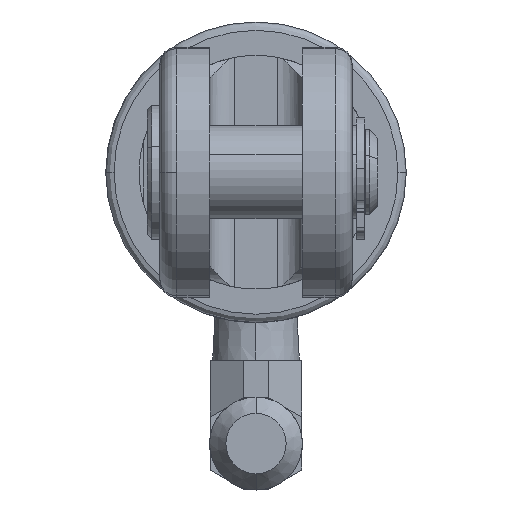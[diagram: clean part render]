
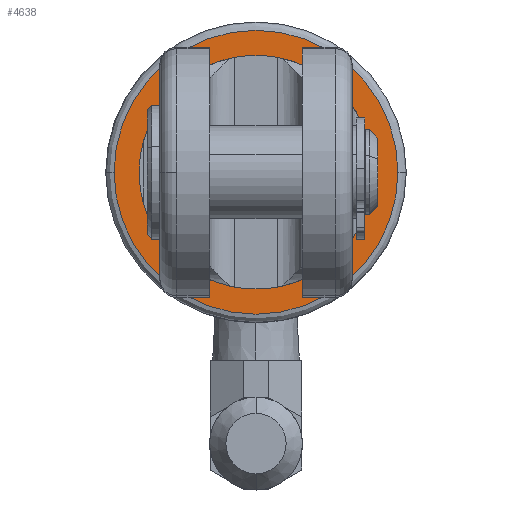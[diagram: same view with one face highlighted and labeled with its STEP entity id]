
A CAD part, front view. The second image highlights one B-rep face of the part: STEP entity #4638.
In plain terms, the highlighted planar face has unit normal (0, -1, 0).
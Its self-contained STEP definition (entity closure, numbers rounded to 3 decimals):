
#17 = CIRCLE ( 'NONE', #3726, 17. ) ;
#168 = VERTEX_POINT ( 'NONE', #6243 ) ;
#283 = DIRECTION ( 'NONE',  ( -1., 0., 0. ) ) ;
#291 = ORIENTED_EDGE ( 'NONE', *, *, #4564, .F. ) ;
#528 = CARTESIAN_POINT ( 'NONE',  ( 0., -404.75, 0. ) ) ;
#751 = ORIENTED_EDGE ( 'NONE', *, *, #4814, .F. ) ;
#789 = CARTESIAN_POINT ( 'NONE',  ( 0., -404.75, -15. ) ) ;
#820 = PLANE ( 'NONE',  #4508 ) ;
#990 = CARTESIAN_POINT ( 'NONE',  ( 0., -404.75, 0. ) ) ;
#1020 = CARTESIAN_POINT ( 'NONE',  ( 2.55, -404.75, -13.766 ) ) ;
#1069 = VERTEX_POINT ( 'NONE', #4965 ) ;
#1170 = DIRECTION ( 'NONE',  ( -1., 0., 0. ) ) ;
#1494 = CARTESIAN_POINT ( 'NONE',  ( 0., -404.75, 0. ) ) ;
#1542 = AXIS2_PLACEMENT_3D ( 'NONE', #4329, #1984, #2603 ) ;
#1697 = DIRECTION ( 'NONE',  ( 0., -1., 0. ) ) ;
#1699 = CIRCLE ( 'NONE', #5509, 14. ) ;
#1725 = EDGE_LOOP ( 'NONE', ( #2655, #2430 ) ) ;
#1813 = DIRECTION ( 'NONE',  ( 0., 0., 1. ) ) ;
#1984 = DIRECTION ( 'NONE',  ( 0., -1., 0. ) ) ;
#2012 = ORIENTED_EDGE ( 'NONE', *, *, #4301, .F. ) ;
#2017 = CIRCLE ( 'NONE', #5665, 17. ) ;
#2094 = AXIS2_PLACEMENT_3D ( 'NONE', #528, #3013, #1813 ) ;
#2097 = CARTESIAN_POINT ( 'NONE',  ( 17., -404.75, 0. ) ) ;
#2267 = CARTESIAN_POINT ( 'NONE',  ( 0., -404.75, 0. ) ) ;
#2430 = ORIENTED_EDGE ( 'NONE', *, *, #3222, .T. ) ;
#2444 = AXIS2_PLACEMENT_3D ( 'NONE', #2267, #1697, #4092 ) ;
#2460 = VERTEX_POINT ( 'NONE', #2097 ) ;
#2603 = DIRECTION ( 'NONE',  ( -1., 0., 0. ) ) ;
#2629 = ORIENTED_EDGE ( 'NONE', *, *, #5474, .F. ) ;
#2654 = EDGE_CURVE ( 'NONE', #2987, #2460, #2017, .T. ) ;
#2655 = ORIENTED_EDGE ( 'NONE', *, *, #2654, .T. ) ;
#2987 = VERTEX_POINT ( 'NONE', #3248 ) ;
#3013 = DIRECTION ( 'NONE',  ( 0., -1., 0. ) ) ;
#3047 = VERTEX_POINT ( 'NONE', #3860 ) ;
#3150 = DIRECTION ( 'NONE',  ( 0., -1., 0. ) ) ;
#3177 = EDGE_CURVE ( 'NONE', #4813, #4971, #7003, .T. ) ;
#3222 = EDGE_CURVE ( 'NONE', #2460, #2987, #17, .T. ) ;
#3248 = CARTESIAN_POINT ( 'NONE',  ( -17., -404.75, 0. ) ) ;
#3280 = DIRECTION ( 'NONE',  ( 0., -1., 0. ) ) ;
#3502 = ORIENTED_EDGE ( 'NONE', *, *, #7797, .F. ) ;
#3598 = DIRECTION ( 'NONE',  ( -1., 0., 0. ) ) ;
#3713 = VERTEX_POINT ( 'NONE', #4218 ) ;
#3726 = AXIS2_PLACEMENT_3D ( 'NONE', #6008, #5471, #3598 ) ;
#3763 = CIRCLE ( 'NONE', #1542, 14. ) ;
#3860 = CARTESIAN_POINT ( 'NONE',  ( -13.5, -404.75, -3.708 ) ) ;
#3991 = CIRCLE ( 'NONE', #2444, 14. ) ;
#4058 = ORIENTED_EDGE ( 'NONE', *, *, #3177, .F. ) ;
#4092 = DIRECTION ( 'NONE',  ( 0., 0., 1. ) ) ;
#4097 = VERTEX_POINT ( 'NONE', #6983 ) ;
#4113 = DIRECTION ( 'NONE',  ( 0., -1., 0. ) ) ;
#4205 = CARTESIAN_POINT ( 'NONE',  ( 2.55, -404.75, 13.766 ) ) ;
#4218 = CARTESIAN_POINT ( 'NONE',  ( 13.5, -404.75, -3.708 ) ) ;
#4244 = AXIS2_PLACEMENT_3D ( 'NONE', #6745, #7408, #6216 ) ;
#4301 = EDGE_CURVE ( 'NONE', #4971, #4097, #7533, .T. ) ;
#4329 = CARTESIAN_POINT ( 'NONE',  ( 0., -404.75, 0. ) ) ;
#4508 = AXIS2_PLACEMENT_3D ( 'NONE', #789, #5084, #5145 ) ;
#4564 = EDGE_CURVE ( 'NONE', #3047, #1069, #5253, .T. ) ;
#4638 = ADVANCED_FACE ( 'NONE', ( #7713, #5630 ), #820, .F. ) ;
#4813 = VERTEX_POINT ( 'NONE', #4205 ) ;
#4814 = EDGE_CURVE ( 'NONE', #1069, #5328, #3991, .T. ) ;
#4933 = CARTESIAN_POINT ( 'NONE',  ( 0., -404.75, 0. ) ) ;
#4965 = CARTESIAN_POINT ( 'NONE',  ( -2.55, -404.75, -13.766 ) ) ;
#4971 = VERTEX_POINT ( 'NONE', #6763 ) ;
#5071 = DIRECTION ( 'NONE',  ( 0., -1., 0. ) ) ;
#5084 = DIRECTION ( 'NONE',  ( 0., 1., 0. ) ) ;
#5145 = DIRECTION ( 'NONE',  ( 1., 0., 0. ) ) ;
#5241 = DIRECTION ( 'NONE',  ( -1., 0., 0. ) ) ;
#5253 = CIRCLE ( 'NONE', #4244, 14. ) ;
#5328 = VERTEX_POINT ( 'NONE', #1020 ) ;
#5471 = DIRECTION ( 'NONE',  ( 0., -1., 0. ) ) ;
#5474 = EDGE_CURVE ( 'NONE', #4097, #3047, #1699, .T. ) ;
#5509 = AXIS2_PLACEMENT_3D ( 'NONE', #6805, #3150, #6100 ) ;
#5630 = FACE_OUTER_BOUND ( 'NONE', #1725, .T. ) ;
#5665 = AXIS2_PLACEMENT_3D ( 'NONE', #990, #4113, #5241 ) ;
#5903 = ORIENTED_EDGE ( 'NONE', *, *, #7573, .F. ) ;
#6008 = CARTESIAN_POINT ( 'NONE',  ( 0., -404.75, 0. ) ) ;
#6097 = AXIS2_PLACEMENT_3D ( 'NONE', #1494, #5071, #283 ) ;
#6100 = DIRECTION ( 'NONE',  ( 0., 0., 1. ) ) ;
#6216 = DIRECTION ( 'NONE',  ( -1., 0., 0. ) ) ;
#6243 = CARTESIAN_POINT ( 'NONE',  ( 13.5, -404.75, 3.708 ) ) ;
#6256 = CARTESIAN_POINT ( 'NONE',  ( 0., -404.75, 0. ) ) ;
#6705 = AXIS2_PLACEMENT_3D ( 'NONE', #4933, #7269, #1170 ) ;
#6745 = CARTESIAN_POINT ( 'NONE',  ( 0., -404.75, 0. ) ) ;
#6763 = CARTESIAN_POINT ( 'NONE',  ( -2.55, -404.75, 13.766 ) ) ;
#6805 = CARTESIAN_POINT ( 'NONE',  ( 0., -404.75, 0. ) ) ;
#6983 = CARTESIAN_POINT ( 'NONE',  ( -13.5, -404.75, 3.708 ) ) ;
#7003 = CIRCLE ( 'NONE', #2094, 14. ) ;
#7014 = CIRCLE ( 'NONE', #7454, 14. ) ;
#7188 = EDGE_CURVE ( 'NONE', #3713, #168, #7014, .T. ) ;
#7212 = EDGE_LOOP ( 'NONE', ( #7854, #3502, #751, #291, #2629, #2012, #4058, #5903 ) ) ;
#7269 = DIRECTION ( 'NONE',  ( 0., -1., 0. ) ) ;
#7292 = CIRCLE ( 'NONE', #6097, 14. ) ;
#7408 = DIRECTION ( 'NONE',  ( 0., -1., 0. ) ) ;
#7454 = AXIS2_PLACEMENT_3D ( 'NONE', #6256, #3280, #7578 ) ;
#7533 = CIRCLE ( 'NONE', #6705, 14. ) ;
#7573 = EDGE_CURVE ( 'NONE', #168, #4813, #7292, .T. ) ;
#7578 = DIRECTION ( 'NONE',  ( 0., 0., 1. ) ) ;
#7713 = FACE_BOUND ( 'NONE', #7212, .T. ) ;
#7797 = EDGE_CURVE ( 'NONE', #5328, #3713, #3763, .T. ) ;
#7854 = ORIENTED_EDGE ( 'NONE', *, *, #7188, .F. ) ;
